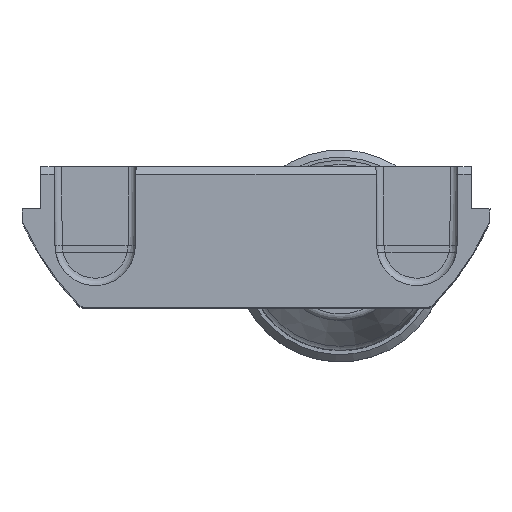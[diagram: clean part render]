
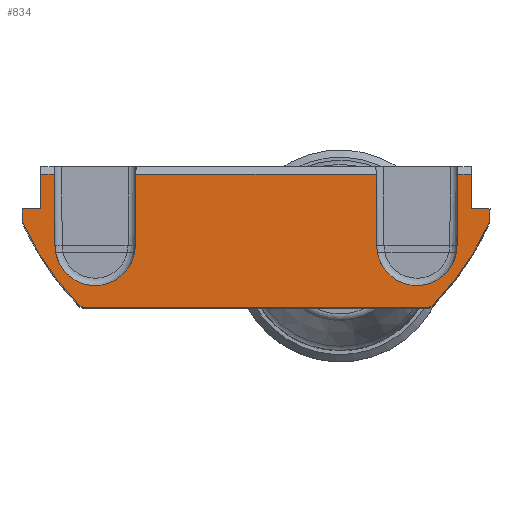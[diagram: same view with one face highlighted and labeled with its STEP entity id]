
A CAD part, top view. The second image highlights one B-rep face of the part: STEP entity #834.
In plain terms, the highlighted planar face has unit normal (0, 0, 1).
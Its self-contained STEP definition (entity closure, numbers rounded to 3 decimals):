
#834=ADVANCED_FACE('',(#1482),#1185,.T.);
#1185=PLANE('',#7582);
#1482=FACE_OUTER_BOUND('',#1832,.T.);
#1832=EDGE_LOOP('',(#3545,#3546,#3547,#3548,#3549,#3550,#3551,#3552,#3553,
#3554,#3555,#3556,#3557,#3558,#3559,#3560,#3561,#3562,#3563,#3564,#3565,
#3566));
#2212=CIRCLE('',#7371,0.5);
#2213=CIRCLE('',#7375,0.5);
#2214=CIRCLE('',#7379,0.5);
#2215=CIRCLE('',#7381,0.5);
#2216=CIRCLE('',#7403,2.75);
#2217=CIRCLE('',#7406,2.75);
#2262=CIRCLE('',#7575,20.);
#2263=CIRCLE('',#7579,20.);
#3545=ORIENTED_EDGE('',*,*,#5773,.F.);
#3546=ORIENTED_EDGE('',*,*,#5362,.T.);
#3547=ORIENTED_EDGE('',*,*,#5486,.F.);
#3548=ORIENTED_EDGE('',*,*,#5492,.F.);
#3549=ORIENTED_EDGE('',*,*,#5490,.F.);
#3550=ORIENTED_EDGE('',*,*,#5358,.T.);
#3551=ORIENTED_EDGE('',*,*,#5500,.T.);
#3552=ORIENTED_EDGE('',*,*,#5497,.T.);
#3553=ORIENTED_EDGE('',*,*,#5494,.T.);
#3554=ORIENTED_EDGE('',*,*,#5354,.T.);
#3555=ORIENTED_EDGE('',*,*,#5774,.F.);
#3556=ORIENTED_EDGE('',*,*,#5775,.F.);
#3557=ORIENTED_EDGE('',*,*,#5479,.F.);
#3558=ORIENTED_EDGE('',*,*,#5424,.T.);
#3559=ORIENTED_EDGE('',*,*,#5767,.T.);
#3560=ORIENTED_EDGE('',*,*,#5431,.T.);
#3561=ORIENTED_EDGE('',*,*,#5772,.F.);
#3562=ORIENTED_EDGE('',*,*,#5437,.T.);
#3563=ORIENTED_EDGE('',*,*,#5770,.T.);
#3564=ORIENTED_EDGE('',*,*,#5438,.T.);
#3565=ORIENTED_EDGE('',*,*,#5481,.F.);
#3566=ORIENTED_EDGE('',*,*,#5776,.F.);
#4633=VERTEX_POINT('',#10527);
#4635=VERTEX_POINT('',#10531);
#4637=VERTEX_POINT('',#10536);
#4639=VERTEX_POINT('',#10540);
#4641=VERTEX_POINT('',#10545);
#4643=VERTEX_POINT('',#10549);
#4684=VERTEX_POINT('',#10977);
#4685=VERTEX_POINT('',#10979);
#4688=VERTEX_POINT('',#10989);
#4689=VERTEX_POINT('',#10991);
#4692=VERTEX_POINT('',#11001);
#4693=VERTEX_POINT('',#11003);
#4694=VERTEX_POINT('',#11007);
#4695=VERTEX_POINT('',#11008);
#4731=VERTEX_POINT('',#11248);
#4732=VERTEX_POINT('',#11252);
#4734=VERTEX_POINT('',#11261);
#4735=VERTEX_POINT('',#11267);
#4736=VERTEX_POINT('',#11274);
#4737=VERTEX_POINT('',#11278);
#4893=VERTEX_POINT('',#11891);
#4894=VERTEX_POINT('',#11893);
#5354=EDGE_CURVE('',#4633,#4635,#6307,.T.);
#5358=EDGE_CURVE('',#4637,#4639,#6311,.T.);
#5362=EDGE_CURVE('',#4641,#4643,#6315,.T.);
#5424=EDGE_CURVE('',#4685,#4684,#2212,.T.);
#5431=EDGE_CURVE('',#4688,#4689,#2213,.T.);
#5437=EDGE_CURVE('',#4692,#4693,#2214,.T.);
#5438=EDGE_CURVE('',#4694,#4695,#2215,.T.);
#5479=EDGE_CURVE('',#4685,#4731,#6357,.T.);
#5481=EDGE_CURVE('',#4732,#4695,#6359,.T.);
#5486=EDGE_CURVE('',#4734,#4643,#6364,.T.);
#5490=EDGE_CURVE('',#4637,#4735,#6368,.T.);
#5492=EDGE_CURVE('',#4735,#4734,#2216,.T.);
#5494=EDGE_CURVE('',#4736,#4633,#6371,.T.);
#5497=EDGE_CURVE('',#4737,#4736,#2217,.T.);
#5500=EDGE_CURVE('',#4639,#4737,#6376,.T.);
#5767=EDGE_CURVE('',#4684,#4688,#2262,.T.);
#5770=EDGE_CURVE('',#4693,#4694,#2263,.T.);
#5772=EDGE_CURVE('',#4692,#4689,#6563,.T.);
#5773=EDGE_CURVE('',#4641,#4893,#6564,.T.);
#5774=EDGE_CURVE('',#4894,#4635,#6565,.T.);
#5775=EDGE_CURVE('',#4731,#4894,#6566,.T.);
#5776=EDGE_CURVE('',#4893,#4732,#6567,.T.);
#6307=LINE('',#10532,#6843);
#6311=LINE('',#10541,#6847);
#6315=LINE('',#10550,#6851);
#6357=LINE('',#11247,#6893);
#6359=LINE('',#11251,#6895);
#6364=LINE('',#11260,#6900);
#6368=LINE('',#11266,#6904);
#6371=LINE('',#11273,#6907);
#6376=LINE('',#11284,#6912);
#6563=LINE('',#11888,#7099);
#6564=LINE('',#11890,#7100);
#6565=LINE('',#11892,#7101);
#6566=LINE('',#11894,#7102);
#6567=LINE('',#11895,#7103);
#6843=VECTOR('',#8357,1.);
#6847=VECTOR('',#8363,1.);
#6851=VECTOR('',#8369,1.);
#6893=VECTOR('',#8563,1.);
#6895=VECTOR('',#8567,1.);
#6900=VECTOR('',#8576,1.);
#6904=VECTOR('',#8582,1.);
#6907=VECTOR('',#8591,1.);
#6912=VECTOR('',#8604,1.);
#7099=VECTOR('',#9135,1.);
#7100=VECTOR('',#9138,1.);
#7101=VECTOR('',#9139,1.);
#7102=VECTOR('',#9140,1.);
#7103=VECTOR('',#9141,1.);
#7371=AXIS2_PLACEMENT_3D('',#10978,#8473,#8474);
#7375=AXIS2_PLACEMENT_3D('',#10992,#8486,#8487);
#7379=AXIS2_PLACEMENT_3D('',#11004,#8498,#8499);
#7381=AXIS2_PLACEMENT_3D('',#11006,#8502,#8503);
#7403=AXIS2_PLACEMENT_3D('',#11270,#8586,#8587);
#7406=AXIS2_PLACEMENT_3D('',#11279,#8596,#8597);
#7575=AXIS2_PLACEMENT_3D('',#11881,#9122,#9123);
#7579=AXIS2_PLACEMENT_3D('',#11885,#9130,#9131);
#7582=AXIS2_PLACEMENT_3D('',#11896,#9142,#9143);
#8357=DIRECTION('',(-1.,0.,0.));
#8363=DIRECTION('',(-1.,0.,0.));
#8369=DIRECTION('',(-1.,0.,0.));
#8473=DIRECTION('',(0.,0.,1.));
#8474=DIRECTION('',(1.,0.,0.));
#8486=DIRECTION('',(0.,0.,1.));
#8487=DIRECTION('',(1.,0.,0.));
#8498=DIRECTION('',(0.,0.,1.));
#8499=DIRECTION('',(1.,0.,0.));
#8502=DIRECTION('',(0.,0.,1.));
#8503=DIRECTION('',(1.,0.,0.));
#8563=DIRECTION('',(-0.009,1.,0.));
#8567=DIRECTION('',(-0.009,-1.,0.));
#8576=DIRECTION('',(0.009,1.,0.));
#8582=DIRECTION('',(0.009,-1.,0.));
#8586=DIRECTION('',(0.,0.,1.));
#8587=DIRECTION('',(1.,0.,0.));
#8591=DIRECTION('',(-0.009,1.,0.));
#8596=DIRECTION('',(0.,0.,-1.));
#8597=DIRECTION('',(1.,0.,0.));
#8604=DIRECTION('',(-0.009,-1.,0.));
#9122=DIRECTION('',(0.,0.,1.));
#9123=DIRECTION('',(-1.,0.,0.));
#9130=DIRECTION('',(0.,0.,1.));
#9131=DIRECTION('',(1.,0.,0.));
#9135=DIRECTION('',(-1.,0.,0.));
#9138=DIRECTION('',(0.009,-1.,0.));
#9139=DIRECTION('',(0.009,1.,0.));
#9140=DIRECTION('',(1.,0.,0.));
#9141=DIRECTION('',(1.,0.,0.));
#9142=DIRECTION('',(0.,0.,1.));
#9143=DIRECTION('',(1.,0.,0.));
#10527=CARTESIAN_POINT('',(-13.793,9.125,-3.625));
#10531=CARTESIAN_POINT('',(-14.729,9.125,-3.625));
#10532=CARTESIAN_POINT('',(-2.263,9.125,-3.625));
#10536=CARTESIAN_POINT('',(8.207,9.125,-3.625));
#10540=CARTESIAN_POINT('',(-8.207,9.125,-3.625));
#10541=CARTESIAN_POINT('',(-2.263,9.125,-3.625));
#10545=CARTESIAN_POINT('',(14.729,9.125,-3.625));
#10549=CARTESIAN_POINT('',(13.793,9.125,-3.625));
#10550=CARTESIAN_POINT('',(-2.263,9.125,-3.625));
#10977=CARTESIAN_POINT('',(-15.949,5.805,-3.625));
#10978=CARTESIAN_POINT('',(-15.494,6.011,-3.625));
#10979=CARTESIAN_POINT('',(-15.994,6.007,-3.625));
#10989=CARTESIAN_POINT('',(-12.124,0.178,-3.625));
#10991=CARTESIAN_POINT('',(-11.764,0.025,-3.625));
#10992=CARTESIAN_POINT('',(-11.764,0.525,-3.625));
#11001=CARTESIAN_POINT('',(11.764,0.025,-3.625));
#11003=CARTESIAN_POINT('',(12.124,0.178,-3.625));
#11004=CARTESIAN_POINT('',(11.764,0.525,-3.625));
#11006=CARTESIAN_POINT('',(15.494,6.011,-3.625));
#11007=CARTESIAN_POINT('',(15.949,5.805,-3.625));
#11008=CARTESIAN_POINT('',(15.994,6.007,-3.625));
#11247=CARTESIAN_POINT('',(-16.063,13.951,-3.625));
#11248=CARTESIAN_POINT('',(-16.,6.75,-3.625));
#11251=CARTESIAN_POINT('',(16.062,13.911,-3.625));
#11252=CARTESIAN_POINT('',(16.,6.75,-3.625));
#11260=CARTESIAN_POINT('',(13.75,4.25,-3.625));
#11261=CARTESIAN_POINT('',(13.75,4.25,-3.625));
#11266=CARTESIAN_POINT('',(8.25,4.25,-3.625));
#11267=CARTESIAN_POINT('',(8.25,4.25,-3.625));
#11270=CARTESIAN_POINT('',(11.,4.25,-3.625));
#11273=CARTESIAN_POINT('',(-13.75,4.25,-3.625));
#11274=CARTESIAN_POINT('',(-13.75,4.25,-3.625));
#11278=CARTESIAN_POINT('',(-8.25,4.25,-3.625));
#11279=CARTESIAN_POINT('',(-11.,4.25,-3.625));
#11284=CARTESIAN_POINT('',(-8.25,4.25,-3.625));
#11881=CARTESIAN_POINT('',(2.263,14.071,-3.625));
#11885=CARTESIAN_POINT('',(-2.263,14.071,-3.625));
#11888=CARTESIAN_POINT('',(-11.95,0.025,-3.625));
#11890=CARTESIAN_POINT('',(14.685,14.219,-3.625));
#11891=CARTESIAN_POINT('',(14.75,6.75,-3.625));
#11892=CARTESIAN_POINT('',(-14.685,14.18,-3.625));
#11893=CARTESIAN_POINT('',(-14.75,6.75,-3.625));
#11894=CARTESIAN_POINT('',(-2.263,6.75,-3.625));
#11895=CARTESIAN_POINT('',(-2.263,6.75,-3.625));
#11896=CARTESIAN_POINT('',(-2.263,14.071,-3.625));
